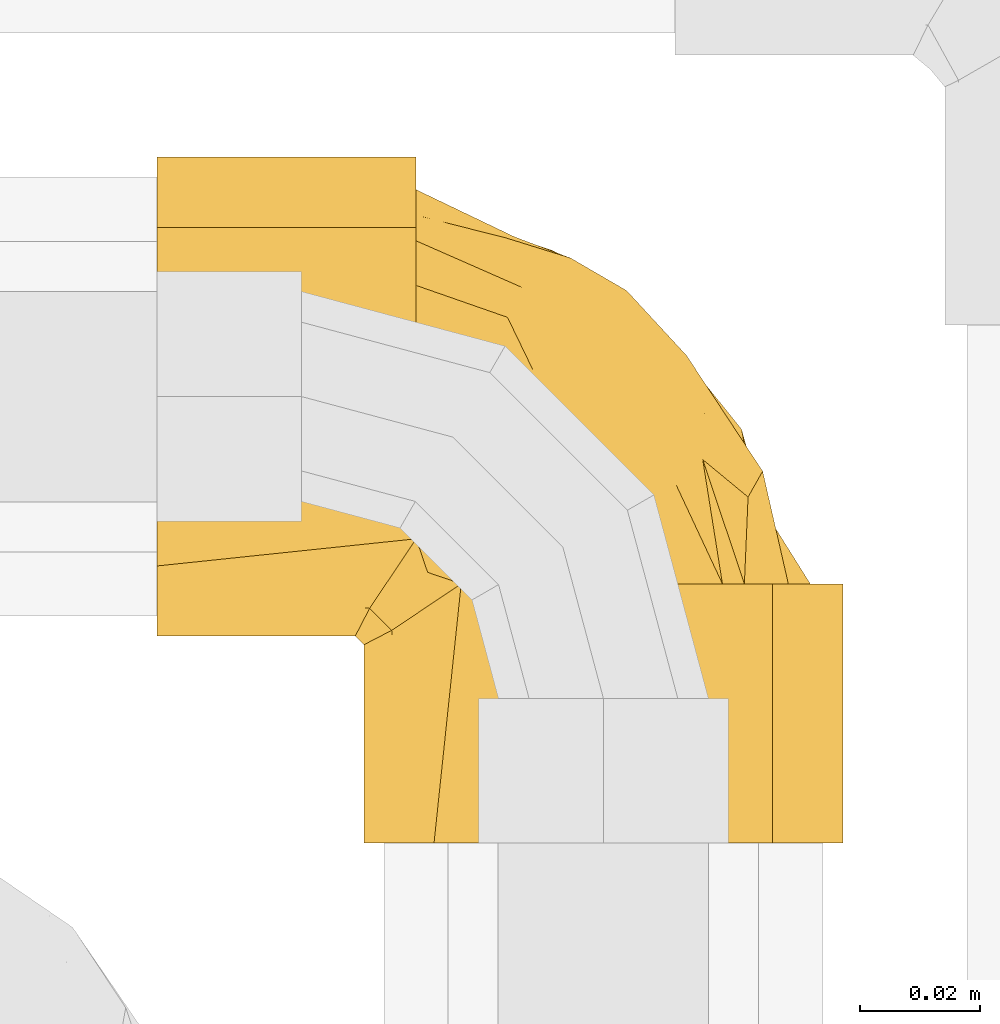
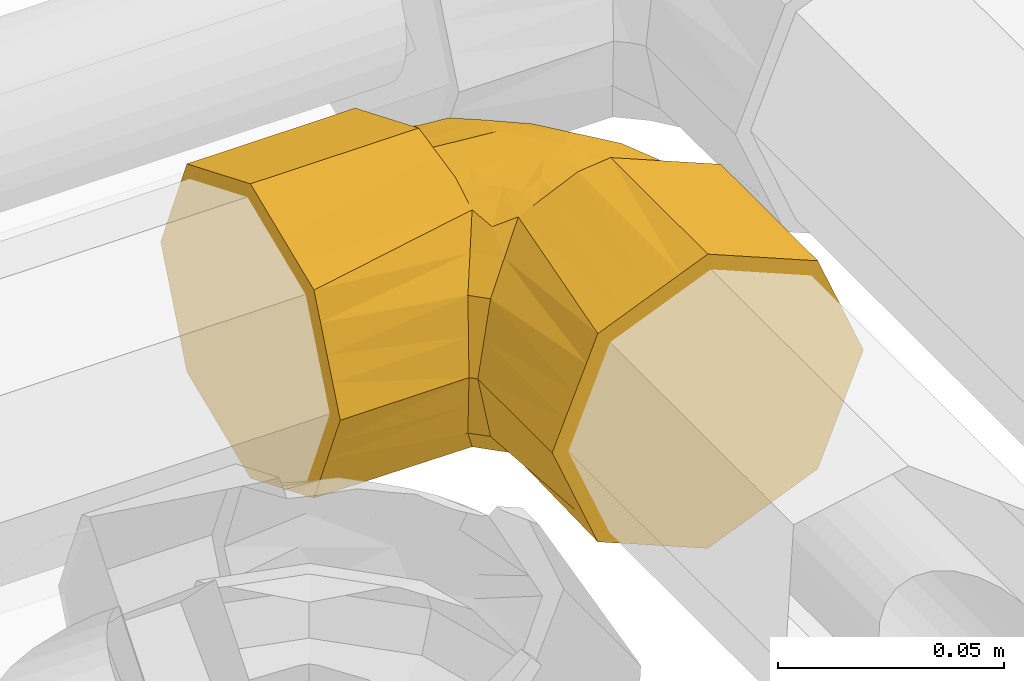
# One storey, part 262 of 652: 1 covering.
"""IFC2X3 building model written with IfcOpenShell, lengths in millimetres."""

from ifc_helpers import new_model, entity, si_unit, converted_unit, direction, frame, origin, place, context, subcontext, project, spatial, faceted_brep, material, type_object, element, save


model = new_model("IFC2X3")

# Units and contexts
model_context = context("Model", 3, precision=0.01, world=frame((0.0, 0.0, 308426.39999999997)), true_north=direction((6.123233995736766e-17, 1.0)))
plan_context = context("Plan", 3, precision=0.01, world=frame((0.0, 0.0, 308426.39999999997)), true_north=direction((6.123233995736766e-17, 1.0)))
body_context = subcontext(model_context, "Body", "Model", "MODEL_VIEW")
ifc_project = project(units=[si_unit("LENGTHUNIT", "METRE", prefix="MILLI"), si_unit("AREAUNIT", "SQUARE_METRE"), si_unit("VOLUMEUNIT", "CUBIC_METRE"), converted_unit("PLANEANGLEUNIT", "DEGREE", entity("IfcPlaneAngleMeasure", 0.017453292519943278), si_unit("PLANEANGLEUNIT", "RADIAN"), dimensions=[0, 0, 0, 0, 0, 0, 0])], contexts=[model_context, plan_context])

# Site, building, storey
site_placement = place(None, origin())
site = spatial("IfcSite", under=ifc_project, at=site_placement, Name="Default", CompositionType="ELEMENT")
building_placement = place(site_placement, origin())
building = spatial("IfcBuilding", under=site, at=building_placement, CompositionType="ELEMENT")
storey_placement = place(building_placement, frame((0.0, 0.0, 1730.6999999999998)))
storey = spatial("IfcBuildingStorey", under=building, at=storey_placement, Name="EG_Produktion_FFB", CompositionType="ELEMENT", Elevation=1730.6999999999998)

# Covering
ifc_material = material(Name="Dämmung - Armaflex-Schlauch")
covering_type = type_object("IfcCoveringType", Name="Rohrdämmung außen:Armaflex-Schlauch", PredefinedType="INSULATION")
covering_placement = place(storey_placement, frame((76805.91575000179, 60925.91574999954, 3941.3532722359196)))
element("IfcCovering", 1, at=covering_placement, inside=storey, type_object=covering_type, material=ifc_material, Name="Rohrdämmung außen:Armaflex-Schlauch", ObjectType="Rohrdämmung außen:Armaflex-Schlauch", PredefinedType="INSULATION", context=body_context, shape_type="Brep", body=[
    faceted_brep([(60.144076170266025, 43.00574999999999, -76.62300673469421), (64.13185283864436, 43.00574999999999, -77.08951820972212), (70.33992920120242, 43.00574999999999, -77.81577223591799), (77.97579246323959, 43.00574999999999, -74.37467999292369), (85.61165572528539, 43.00574999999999, -70.93358774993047), (92.77248166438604, 43.00574999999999, -67.7065704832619), (99.933307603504, 43.00574999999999, -64.47955321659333), (104.18429126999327, 43.00574999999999, -52.91641272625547), (108.43527493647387, 43.00574999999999, -41.353272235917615), (104.78880055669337, 43.00574999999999, -34.14184701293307), (101.14232617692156, 43.00574999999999, -26.930421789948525), (97.49585179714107, 43.00575000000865, -19.71899656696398), (93.84937741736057, 43.00574999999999, -12.507571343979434), (86.49570507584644, 43.00574999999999, -10.125063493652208), (78.4178171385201, 43.00574999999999, -7.507917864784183), (70.33992920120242, 43.00574999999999, -4.8907722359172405), (64.13185283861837, 43.00574999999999, -5.617026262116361), (60.144076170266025, 43.00574999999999, -6.083537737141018), (55.31227974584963, 43.00574999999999, -7.721836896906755), (50.48048332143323, 43.00574999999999, -9.36013605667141), (58.097888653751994, 43.00574999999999, -5.923104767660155), (65.71529398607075, 43.00574999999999, -2.4860734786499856), (74.08425000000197, 43.00574999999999, -1.5952722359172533), (82.0800204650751, 43.00574999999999, -4.907228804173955), (88.14082570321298, 43.00574999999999, -7.417696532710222), (95.16911355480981, 43.00574999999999, -10.328908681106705), (102.19740140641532, 43.00574999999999, -13.24012082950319), (105.10861355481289, 43.00574999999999, -20.268408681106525), (108.01982570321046, 43.00574999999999, -27.296696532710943), (110.93103785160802, 43.00574999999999, -34.32498438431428), (113.84224999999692, 43.00574999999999, -41.353272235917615), (110.5302934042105, 43.00574999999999, -49.34904276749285), (108.01982570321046, 43.00574999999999, -55.40984793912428), (105.10861355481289, 43.00574999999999, -62.4381357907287), (102.19740140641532, 43.00574999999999, -69.46642364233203), (95.16911355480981, 43.00574999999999, -72.37763579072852), (88.14082570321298, 43.00574999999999, -75.288847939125), (82.0800191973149, 43.00574999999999, -77.79931619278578), (74.08425000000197, 43.00574999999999, -81.11127223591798), (65.90823846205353, 43.00574999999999, -79.352081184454), (57.73222692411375, 43.00574999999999, -77.59289013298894), (50.48048332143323, 43.00574999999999, -73.34640841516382), (55.31227974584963, 43.00574999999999, -74.98470757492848), (67.05596214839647, 0.0, -4.506484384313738), (60.02767429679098, 0.0, -7.417696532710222), (52.9993864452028, 0.0, -10.328908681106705), (45.971098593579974, 0.0, -13.24012082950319), (43.05988644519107, 0.0, -20.268408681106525), (40.1486742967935, 0.0, -27.296696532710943), (37.63820666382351, 0.0, -33.35750154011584), (34.32624999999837, 0.0, -41.353272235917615), (37.63820598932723, 0.0, -49.349041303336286), (40.14867429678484, 0.0, -55.40984793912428), (43.05988644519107, 0.0, -62.4381357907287), (45.971098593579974, 0.0, -69.46642364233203), (52.99938644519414, 0.0, -72.37763579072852), (60.02767429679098, 0.0, -75.288847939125), (67.05596214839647, 0.0, -78.20006008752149), (74.08425000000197, 0.0, -81.11127223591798), (81.11253785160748, 0.0, -78.20006008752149), (88.14082570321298, 0.0, -75.288847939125), (95.16911355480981, 0.0, -72.37763579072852), (102.19740140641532, 0.0, -69.46642364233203), (105.10861355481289, 0.0, -62.43813579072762), (108.01982570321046, 0.0, -55.40984793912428), (110.93103785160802, 0.0, -48.38156008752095), (113.84224999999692, 0.0, -41.353272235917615), (110.93103785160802, 0.0, -34.32498438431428), (108.01982570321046, 0.0, -27.296696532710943), (105.10861355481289, 0.0, -20.26840868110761), (102.19740140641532, 0.0, -13.24012082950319), (90.07579169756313, 0.0, -8.219185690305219), (82.08002084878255, 0.0, -4.907228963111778), (74.08425000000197, 0.0, -1.5952722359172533), (44.71268924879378, 39.14313917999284, -16.05718390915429), (34.32624999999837, 32.887345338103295, -41.353272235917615), (36.63557258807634, 34.0839368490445, -32.05375199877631), (38.94489517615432, 35.28052835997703, -22.754231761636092), (37.79023388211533, 34.68223260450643, -27.40399188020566), (44.71268924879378, 39.14313917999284, -66.64936056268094), (36.63557258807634, 34.0839368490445, -50.652792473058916), (38.94489517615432, 35.28052835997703, -59.95231271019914), (35.39615835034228, 33.441725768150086, -45.661736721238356), (43.00574999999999, 74.08425000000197, -81.11127223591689), (43.00574999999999, 82.0800204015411, -77.79931569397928), (43.00574999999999, 88.14082570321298, -75.28884793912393), (43.00574999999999, 95.16911355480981, -72.37763579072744), (43.00574999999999, 102.19740140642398, -69.46642364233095), (43.00574999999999, 105.10861355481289, -62.43813579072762), (43.00574999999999, 108.01982570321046, -55.40984793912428), (43.00574999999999, 110.53029398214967, -49.34904137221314), (43.00574999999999, 113.84225000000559, -41.353272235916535), (43.00574999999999, 110.53029355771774, -33.357502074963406), (43.00574999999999, 108.01982570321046, -27.29669653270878), (43.00574999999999, 105.10861355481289, -20.26840868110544), (43.00574999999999, 102.19740140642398, -13.240120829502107), (43.00574999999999, 95.16911355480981, -10.328908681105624), (43.00574999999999, 88.14082570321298, -7.417696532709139), (43.00574999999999, 81.11253785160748, -4.506484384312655), (43.00574999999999, 74.08425000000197, -1.5952722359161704), (43.00574999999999, 65.90823846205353, -3.3544632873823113), (43.00574999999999, 57.73222692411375, -5.113654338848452), (43.00574999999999, 50.48048332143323, -9.360136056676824), (43.00574999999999, 55.31227974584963, -7.721836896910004), (43.00574999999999, 60.14407617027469, -6.0835377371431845), (43.00574999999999, 64.13185213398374, -5.6170263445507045), (43.00574999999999, 67.23589066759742, -5.25389929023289), (43.00574999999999, 70.33992920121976, -4.8907722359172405), (43.00574999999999, 77.7403796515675, -8.227318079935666), (43.00574999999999, 85.14083010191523, -11.56386392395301), (43.00574999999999, 92.54128055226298, -14.900409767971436), (43.00574999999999, 99.94173100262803, -18.236955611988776), (43.00574999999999, 102.06511698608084, -24.016034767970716), (43.00574999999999, 104.18850296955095, -29.79511392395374), (43.00574999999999, 108.4352749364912, -41.353272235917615), (43.00574999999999, 104.78589932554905, -48.566861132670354), (43.00574999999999, 101.1365237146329, -55.78045002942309), (43.00574999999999, 97.4871481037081, -62.99403892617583), (43.00574999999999, 93.83777249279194, -70.20762782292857), (43.00574999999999, 87.96331166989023, -72.1096639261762), (43.00574999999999, 82.08885084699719, -74.01170002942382), (43.00574999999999, 70.33992920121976, -77.81577223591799), (43.00574999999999, 67.23589066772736, -77.4526451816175), (43.00574999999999, 64.13185213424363, -77.089518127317), (43.00574999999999, 60.14407617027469, -76.62300673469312), (43.00574999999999, 55.31227974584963, -74.98470757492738), (43.00574999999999, 50.48048332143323, -73.34640841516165), (43.00574999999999, 58.097888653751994, -76.7834397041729), (43.00574999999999, 65.7152939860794, -80.22047099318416), (0.0, 81.11253785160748, -4.506484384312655), (0.0, 88.14082570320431, -7.417696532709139), (0.0, 95.16911355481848, -10.328908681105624), (0.0, 102.19740140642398, -13.240120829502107), (0.0, 107.21833667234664, -25.361730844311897), (0.0, 110.53029333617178, -33.357501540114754), (0.0, 113.84225000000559, -41.353272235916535), (0.0, 110.93103785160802, -48.381560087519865), (0.0, 108.01982570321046, -55.40984793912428), (0.0, 105.10861355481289, -62.43813579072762), (0.0, 102.19740140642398, -69.46642364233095), (0.0, 95.16911355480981, -72.37763579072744), (0.0, 88.14082570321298, -75.28884793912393), (0.0, 81.11253785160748, -78.20006008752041), (0.0, 74.08425000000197, -81.11127223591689), (0.0, 67.05596214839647, -78.20006008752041), (0.0, 60.02767429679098, -75.28884793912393), (0.0, 52.99938644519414, -72.37763579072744), (0.0, 45.971098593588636, -69.46642364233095), (0.0, 43.05988644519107, -62.43813579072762), (0.0, 40.1486742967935, -55.40984793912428), (0.0, 37.63820673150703, -49.349043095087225), (0.0, 34.32625000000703, -41.353272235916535), (0.0, 37.638205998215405, -33.35750314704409), (0.0, 40.14867429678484, -27.29669653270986), (0.0, 43.05988644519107, -20.26840868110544), (0.0, 45.971098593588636, -13.240120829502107), (0.0, 52.99938644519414, -10.328908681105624), (0.0, 60.02767429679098, -7.417696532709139), (0.0, 66.08847915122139, -4.907228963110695), (0.0, 74.08425000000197, -1.5952722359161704), (32.88734533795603, 34.32624999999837, -41.353272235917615), (34.08393684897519, 36.63557258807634, -32.05375199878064), (35.280528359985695, 38.94489517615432, -22.754231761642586), (33.99610617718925, 36.466066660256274, -32.73634342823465), (39.14313917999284, 44.71268924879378, -16.057183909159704), (39.14313917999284, 44.71268924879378, -66.64936056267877), (34.08393684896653, 36.63557258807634, -50.65279247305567), (35.28052835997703, 38.94489517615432, -59.9523127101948), (33.9961061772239, 36.46606666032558, -49.97020104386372), (33.44172575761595, 35.396158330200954, -45.66173663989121), (58.166290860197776, 87.24641648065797, -12.124299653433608), (86.24367512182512, 59.264167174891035, -11.869467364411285), (75.43570574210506, 64.79374823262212, -8.378555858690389), (63.77170858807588, 54.444618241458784, -4.8907722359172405), (71.00962303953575, 57.53690591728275, -5.704393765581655), (60.33082901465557, 69.53966351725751, -5.817790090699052), (74.69227230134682, 78.61751170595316, -14.285355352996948), (90.57284197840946, 63.635451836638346, -17.286951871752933), (77.92193606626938, 91.69909945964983, -41.353272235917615), (68.6359141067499, 97.09443549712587, -33.28725759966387), (87.88495600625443, 80.91983021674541, -32.933813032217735), (100.80694021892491, 55.17908736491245, -41.353272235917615), (100.52515800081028, 61.704602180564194, -31.928717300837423), (79.21479866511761, 81.91303386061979, -20.52698465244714), (45.389360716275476, 68.51539346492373, -4.8907722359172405), (47.77297143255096, 66.69085772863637, -4.8907722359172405), (52.54019286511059, 63.04178625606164, -4.8907722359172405), (58.15595072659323, 58.74320224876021, -4.8907722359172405), (60.494157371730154, 92.25168823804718, -17.193351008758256), (90.87816522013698, 71.24462333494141, -23.505882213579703), (98.10654117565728, 57.411109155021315, -22.48997159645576), (69.60139271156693, 92.66741072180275, -24.518432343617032), (81.49463540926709, 84.61256912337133, -26.85666627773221), (60.46384303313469, 100.06718719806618, -41.353272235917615), (59.30685202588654, 100.62176107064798, -41.353272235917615), (93.1786055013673, 67.3524247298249, -41.353272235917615), (89.44118018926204, 73.31662804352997, -41.353272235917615), (85.55027078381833, 79.52576209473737, -41.353272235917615), (57.68461622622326, 100.50080532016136, -26.962093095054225), (62.34563514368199, 78.60353708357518, -8.9072050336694), (98.93822756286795, 58.16118902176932, -41.353272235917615), (67.32420901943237, 48.25776996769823, -4.890772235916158), (59.547719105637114, 48.6114223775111, -5.540058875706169), (54.28952280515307, 47.904704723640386, -6.75191602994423), (33.63371593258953, 33.6337159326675, -41.353272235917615), (51.45915617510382, 51.459156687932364, -6.670824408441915), (44.908883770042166, 44.908883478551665, -11.210836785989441), (47.90470403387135, 54.28952252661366, -6.751916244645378), (48.5166417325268, 59.518701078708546, -5.55502126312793), (59.54771910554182, 48.6114223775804, -77.16648559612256), (67.32420901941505, 48.25776996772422, -77.81577223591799), (44.90888341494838, 44.90888338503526, -71.49570746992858), (51.45915542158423, 51.459155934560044, -76.03571971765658), (54.289522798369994, 47.90470469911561, -75.95462843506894), (58.15595072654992, 58.743202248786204, -77.81577223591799), (47.904704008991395, 54.28952251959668, -75.95462822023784), (48.51664173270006, 59.51870107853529, -77.15152320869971), (47.77297143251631, 66.69085772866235, -77.81577223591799), (63.77170858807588, 54.444618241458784, -77.81577223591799), (45.389360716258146, 68.51539346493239, -77.81577223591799), (52.54019286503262, 63.041786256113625, -77.81577223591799), (77.88884430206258, 59.61186262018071, -74.80598737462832), (85.68390575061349, 58.14792793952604, -71.56225245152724), (57.20212685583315, 76.41301603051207, -75.79919171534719), (85.21783817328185, 83.37405497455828, -50.884712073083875), (76.99963686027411, 79.87091005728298, -65.94296495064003), (68.28685011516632, 74.44381850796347, -73.58946657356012), (64.58632217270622, 86.90253298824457, -68.10768824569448), (64.72447259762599, 66.0986310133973, -76.81449307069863), (73.0393897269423, 55.988582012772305, -76.8198510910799), (85.65544995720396, 67.81026209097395, -67.36791849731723), (75.83338581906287, 86.6462536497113, -60.18508487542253), (65.65295551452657, 98.35278997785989, -51.08904624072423), (60.45142062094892, 96.79734628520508, -60.011099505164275), (57.30670812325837, 83.3350649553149, -73.08709853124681), (95.65270419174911, 64.80279365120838, -58.137926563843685), (86.3305076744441, 74.76137203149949, -61.63866824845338), (94.01862068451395, 55.99524376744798, -65.97235995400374), (97.0320102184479, 68.64794002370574, -49.62375736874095)], [[[0, 1, 2, 3, 4, 5, 6, 7, 8, 9, 10, 11, 12, 13, 14, 15, 16, 17, 18, 19, 20, 21, 22, 23, 24, 25, 26, 27, 28, 29, 30, 31, 32, 33, 34, 35, 36, 37, 38, 39, 40, 41, 42]], [[43, 44, 45, 46, 47, 48, 49, 50, 51, 52, 53, 54, 55, 56, 57, 58, 59, 60, 61, 62, 63, 64, 65, 66, 67, 68, 69, 70, 71, 72, 73]], [[47, 46, 74]], [[75, 50, 49]], [[76, 75, 49]], [[48, 77, 78, 76]], [[47, 74, 77]], [[44, 20, 45]], [[43, 21, 44]], [[46, 19, 74]], [[77, 48, 47]], [[44, 21, 20]], [[43, 22, 21]], [[48, 76, 49]], [[43, 73, 22]], [[45, 20, 19]], [[19, 46, 45]], [[23, 22, 73, 72, 71, 70, 26, 25, 24]], [[26, 70, 69, 68, 67, 66, 30, 29, 28, 27]], [[38, 37, 36, 35, 34, 62, 61, 60, 59, 58]], [[30, 66, 65, 64, 63, 62, 34, 33, 32, 31]], [[56, 40, 39]], [[53, 79, 54]], [[39, 57, 56]], [[41, 55, 54]], [[40, 55, 41]], [[80, 52, 51]], [[52, 80, 81]], [[58, 57, 38]], [[51, 75, 82, 80]], [[38, 57, 39]], [[79, 53, 81]], [[55, 40, 56]], [[51, 50, 75]], [[53, 52, 81]], [[79, 41, 54]], [[83, 84, 85, 86, 87, 88, 89, 90, 91, 92, 93, 94, 95, 96, 97, 98, 99, 100, 101, 102, 103, 104, 105, 106, 107, 108, 109, 110, 111, 112, 113, 114, 115, 116, 117, 118, 119, 120, 121, 122, 123, 124, 125, 126, 127, 128]], [[129, 130, 131, 132, 133, 134, 135, 136, 137, 138, 139, 140, 141, 142, 143, 144, 145, 146, 147, 148, 149, 150, 151, 152, 153, 154, 155, 156, 157, 158, 159]], [[135, 134, 133, 132, 95, 94, 93, 92, 91]], [[95, 132, 131, 130, 129, 159, 99, 98, 97, 96]], [[159, 158, 157, 100]], [[101, 156, 102]], [[99, 159, 100]], [[101, 100, 157]], [[152, 151, 160]], [[102, 156, 155]], [[153, 161, 162]], [[161, 153, 152]], [[152, 160, 163, 161]], [[154, 164, 155]], [[164, 154, 162]], [[156, 101, 157]], [[154, 153, 162]], [[164, 102, 155]], [[148, 147, 165]], [[149, 166, 150]], [[166, 149, 167]], [[160, 151, 150]], [[148, 165, 167]], [[145, 127, 146]], [[144, 128, 145]], [[147, 126, 165]], [[167, 149, 148]], [[145, 128, 127]], [[144, 83, 128]], [[150, 166, 168, 169, 160]], [[144, 143, 83]], [[146, 127, 126]], [[126, 147, 146]], [[91, 90, 89, 88, 87, 139, 138, 137, 136, 135]], [[141, 140, 139, 87, 86, 85, 84, 83, 143, 142]], [[109, 170, 110]], [[13, 171, 172]], [[14, 13, 172]], [[173, 174, 175]], [[176, 171, 177]], [[15, 14, 174]], [[178, 179, 180]], [[9, 181, 182]], [[172, 175, 174]], [[13, 12, 171]], [[12, 11, 177]], [[176, 177, 183]], [[175, 107, 184, 185, 186, 187, 173]], [[188, 170, 176]], [[176, 172, 171]], [[189, 190, 182]], [[11, 10, 190]], [[177, 11, 190]], [[170, 188, 110]], [[191, 183, 192]], [[179, 178, 193, 194]], [[182, 190, 10]], [[189, 182, 180]], [[177, 190, 189]], [[182, 10, 9]], [[182, 195, 180]], [[177, 189, 183]], [[177, 171, 12]], [[180, 195, 196, 197, 178]], [[113, 179, 194]], [[112, 111, 198, 113]], [[198, 111, 188]], [[194, 114, 113]], [[179, 191, 192]], [[199, 175, 172]], [[199, 108, 175]], [[172, 176, 199]], [[188, 111, 110]], [[199, 170, 109]], [[183, 188, 176]], [[108, 199, 109]], [[188, 191, 198]], [[108, 107, 175]], [[176, 170, 199]], [[192, 189, 180]], [[188, 183, 191]], [[189, 192, 183]], [[179, 192, 180]], [[181, 9, 8]], [[182, 181, 200, 195]], [[191, 179, 198]], [[179, 113, 198]], [[174, 173, 201, 15]], [[172, 174, 14]], [[173, 202, 201]], [[173, 187, 203]], [[18, 203, 19]], [[201, 17, 16, 15]], [[204, 76, 163]], [[74, 164, 162, 77]], [[163, 76, 78, 77, 162, 161]], [[205, 102, 206]], [[206, 164, 74]], [[106, 105, 104, 185, 184, 107]], [[205, 207, 102]], [[186, 185, 208, 187]], [[204, 75, 76]], [[163, 160, 204]], [[205, 206, 19]], [[164, 206, 102]], [[203, 205, 19]], [[19, 206, 74]], [[201, 202, 17]], [[17, 202, 18]], [[203, 202, 173]], [[18, 202, 203]], [[102, 207, 103]], [[103, 208, 104]], [[207, 205, 187]], [[208, 103, 207]], [[208, 185, 104]], [[187, 208, 207]], [[203, 187, 205]], [[204, 160, 169]], [[209, 210, 0]], [[169, 168, 166, 167, 81, 80, 82]], [[41, 211, 212]], [[1, 0, 210, 2]], [[213, 212, 214]], [[204, 169, 82]], [[79, 165, 211]], [[126, 125, 215]], [[212, 211, 126]], [[204, 82, 75]], [[167, 165, 79, 81]], [[216, 124, 217]], [[218, 209, 213]], [[122, 121, 219, 217, 124, 123]], [[41, 79, 211]], [[211, 165, 126]], [[209, 0, 42]], [[125, 124, 216]], [[126, 215, 212]], [[125, 216, 215]], [[220, 214, 216, 217]], [[213, 42, 41]], [[212, 213, 41]], [[210, 209, 218]], [[214, 212, 215]], [[209, 42, 213]], [[215, 216, 214]], [[218, 213, 214]], [[4, 221, 222]], [[223, 121, 120]], [[224, 178, 197, 196]], [[225, 226, 227]], [[228, 226, 221]], [[229, 218, 228]], [[222, 226, 230]], [[231, 232, 224]], [[3, 229, 221]], [[233, 232, 231]], [[234, 223, 120]], [[229, 2, 210, 218]], [[224, 235, 236]], [[4, 3, 221]], [[228, 218, 214, 220, 217, 219, 121]], [[237, 222, 230]], [[6, 235, 7]], [[235, 6, 237]], [[238, 200, 7]], [[228, 223, 226]], [[224, 238, 235]], [[234, 226, 223]], [[227, 117, 233]], [[193, 232, 115]], [[224, 232, 178]], [[115, 114, 194, 193]], [[235, 237, 236]], [[238, 224, 196]], [[226, 222, 221]], [[222, 237, 5]], [[5, 237, 6]], [[5, 4, 222]], [[237, 230, 236]], [[7, 200, 181, 8]], [[7, 235, 238]], [[238, 196, 195, 200]], [[227, 118, 117]], [[193, 178, 232]], [[231, 236, 225]], [[233, 117, 116]], [[232, 233, 116]], [[227, 233, 231]], [[229, 3, 2]], [[228, 221, 229]], [[121, 223, 228]], [[119, 118, 234, 120]], [[234, 118, 227]], [[227, 226, 234]], [[232, 116, 115]], [[225, 236, 230]], [[224, 236, 231]], [[226, 225, 230]], [[231, 225, 227]]]),
])

save(model, "model.ifc")
